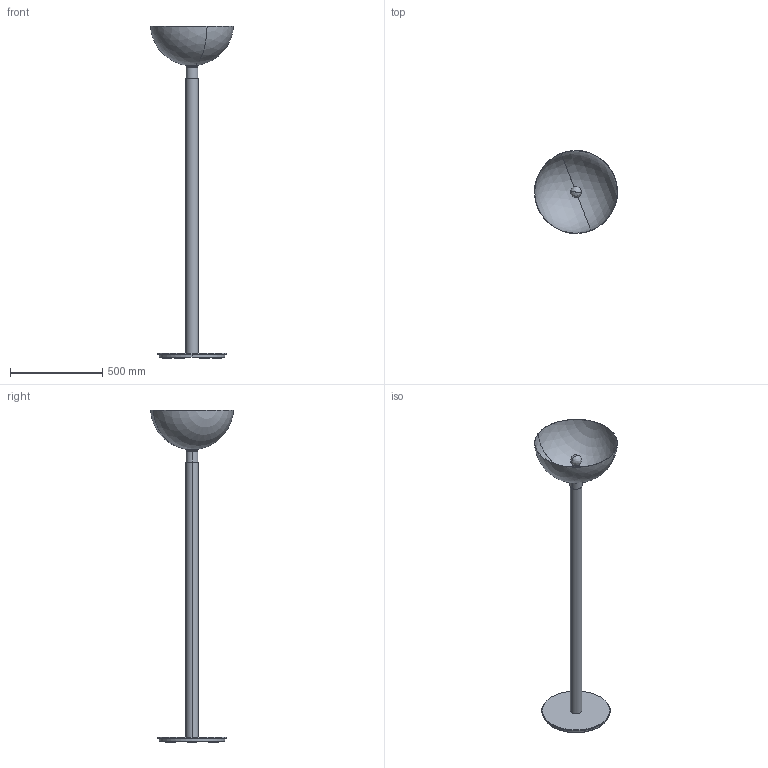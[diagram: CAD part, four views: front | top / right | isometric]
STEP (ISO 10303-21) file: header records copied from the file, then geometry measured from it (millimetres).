
FILE_DESCRIPTION (( 'STEP AP214' ), '1' );
FILE_NAME ('3D_AM2Z.STEP', '2018-02-21T08:42:51', ( 'Utente' ), ( '' ), 'SwSTEP 2.0', 'SolidWorks 2016', '' );
FILE_SCHEMA (( 'AUTOMOTIVE_DESIGN' ));
Length unit declared in the file: millimetre
Products named in the file (6): E27_100W; _U3; Group3^3D_AM2Z_SW; Group2^3D_AM2Z_SW; Group1^3D_AM2Z_SW; 3D_AM2Z
Assembly tree (5 placements, depth 3):
  3D_AM2Z
    Group1^3D_AM2Z_SW
    Group2^3D_AM2Z_SW
    Group3^3D_AM2Z_SW
    E27_100W
      _U3
Bounding box: 449.45 x 449.45 x 1798 mm (x, y, z)
Volume: 8140638.6 mm3; surface area: 1207920.8 mm2
Topology: 7 solids, 7 shells, 160 faces, 372 edges, 229 vertices
Faces by surface type: cylinder 79, plane 35, torus 16, cone 12, sphere 10, bspline 8
Entity records: 9451 total; most frequent: CARTESIAN_POINT 5459, DIRECTION 737, ORIENTED_EDGE 728, EDGE_CURVE 364, AXIS2_PLACEMENT_3D 315, VERTEX_POINT 229, EDGE_LOOP 195, ADVANCED_FACE 160
